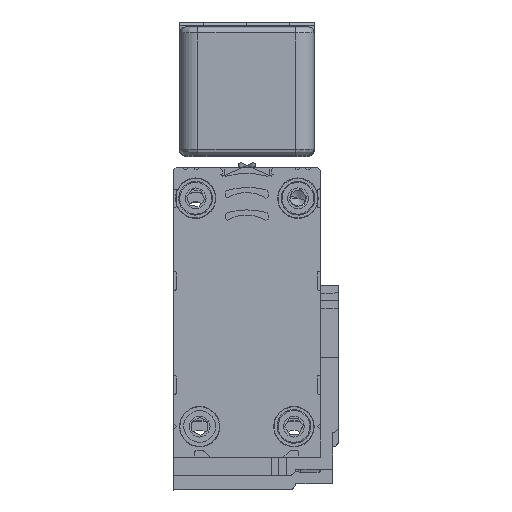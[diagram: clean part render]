
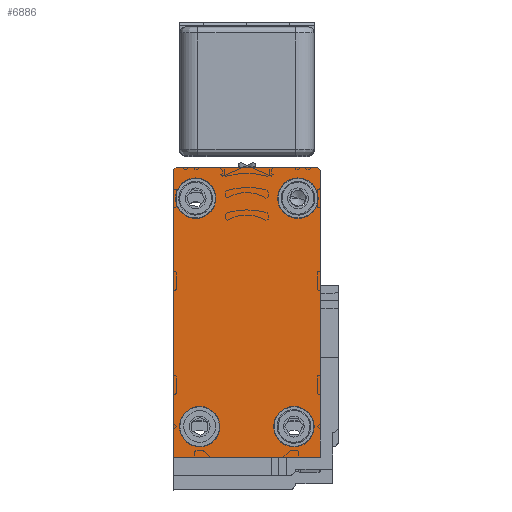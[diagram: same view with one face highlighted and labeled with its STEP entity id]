
A CAD part, top view. The second image highlights one B-rep face of the part: STEP entity #6886.
In plain terms, the highlighted planar face has unit normal (0, 0, 1).
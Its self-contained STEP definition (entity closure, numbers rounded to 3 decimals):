
#288 = EDGE_CURVE ( 'NONE', #23567, #12252, #1662, .T. ) ;
#358 = CARTESIAN_POINT ( 'NONE',  ( -17.514, 25.871, 3185. ) ) ;
#564 = CIRCLE ( 'NONE', #29011, 3.302 ) ;
#652 = CARTESIAN_POINT ( 'NONE',  ( -10.412, -15.887, 3185. ) ) ;
#701 = AXIS2_PLACEMENT_3D ( 'NONE', #11719, #27549, #14027 ) ;
#710 = CARTESIAN_POINT ( 'NONE',  ( 5.984, -20.888, 3185. ) ) ;
#812 = CARTESIAN_POINT ( 'NONE',  ( -13.714, -15.887, 3185. ) ) ;
#888 = VECTOR ( 'NONE', #16638, 1000. ) ;
#1091 = CARTESIAN_POINT ( 'NONE',  ( -14.365, 21.401, 3185. ) ) ;
#1185 = DIRECTION ( 'NONE',  ( 0., 1., 0. ) ) ;
#1212 = VERTEX_POINT ( 'NONE', #28076 ) ;
#1662 = LINE ( 'NONE', #23327, #888 ) ;
#1863 = DIRECTION ( 'NONE',  ( -1., 0., 0. ) ) ;
#2030 = DIRECTION ( 'NONE',  ( 0., 0., -1. ) ) ;
#2117 = AXIS2_PLACEMENT_3D ( 'NONE', #17116, #3514, #19370 ) ;
#2215 = LINE ( 'NONE', #7082, #13529 ) ;
#2303 = CIRCLE ( 'NONE', #11075, 0.5 ) ;
#2661 = DIRECTION ( 'NONE',  ( 0., 1., 0. ) ) ;
#3112 = DIRECTION ( 'NONE',  ( -1., 0., 0. ) ) ;
#3194 = FACE_BOUND ( 'NONE', #11896, .T. ) ;
#3378 = DIRECTION ( 'NONE',  ( -1., 0., 0. ) ) ;
#3384 = EDGE_LOOP ( 'NONE', ( #20297, #14581 ) ) ;
#3493 = EDGE_CURVE ( 'NONE', #7687, #1212, #10973, .T. ) ;
#3514 = DIRECTION ( 'NONE',  ( 0., 0., -1. ) ) ;
#3781 = ORIENTED_EDGE ( 'NONE', *, *, #3493, .T. ) ;
#3921 = EDGE_CURVE ( 'NONE', #20588, #12138, #12044, .T. ) ;
#4705 = CARTESIAN_POINT ( 'NONE',  ( -18.014, -20.888, 3185. ) ) ;
#4708 = AXIS2_PLACEMENT_3D ( 'NONE', #1091, #16981, #3378 ) ;
#4713 = CARTESIAN_POINT ( 'NONE',  ( -18.014, -20.888, 3185. ) ) ;
#4869 = ORIENTED_EDGE ( 'NONE', *, *, #26360, .T. ) ;
#5293 = DIRECTION ( 'NONE',  ( 1., 0., 0. ) ) ;
#5801 = CARTESIAN_POINT ( 'NONE',  ( 5.485, 26.371, 3185. ) ) ;
#6385 = EDGE_CURVE ( 'NONE', #18231, #28520, #23788, .T. ) ;
#6606 = LINE ( 'NONE', #16600, #11875 ) ;
#6886 = ADVANCED_FACE ( 'NONE', ( #27286, #3194, #21255, #26596, #20572 ), #24964, .T. ) ;
#6974 = DIRECTION ( 'NONE',  ( -1., 0., 0. ) ) ;
#6978 = CARTESIAN_POINT ( 'NONE',  ( 5.984, 25.871, 3185. ) ) ;
#7004 = CARTESIAN_POINT ( 'NONE',  ( 5.984, 7.11, 3185. ) ) ;
#7082 = CARTESIAN_POINT ( 'NONE',  ( 5.984, -20.888, 3185. ) ) ;
#7241 = ORIENTED_EDGE ( 'NONE', *, *, #19511, .T. ) ;
#7286 = ORIENTED_EDGE ( 'NONE', *, *, #18147, .F. ) ;
#7675 = ORIENTED_EDGE ( 'NONE', *, *, #8100, .T. ) ;
#7687 = VERTEX_POINT ( 'NONE', #8606 ) ;
#8055 = ORIENTED_EDGE ( 'NONE', *, *, #20238, .T. ) ;
#8100 = EDGE_CURVE ( 'NONE', #17282, #26298, #6606, .T. ) ;
#8310 = ORIENTED_EDGE ( 'NONE', *, *, #3921, .T. ) ;
#8528 = AXIS2_PLACEMENT_3D ( 'NONE', #15578, #2030, #17862 ) ;
#8606 = CARTESIAN_POINT ( 'NONE',  ( -11.063, 21.401, 3185. ) ) ;
#8900 = EDGE_LOOP ( 'NONE', ( #14418, #26445, #17996, #8310, #7286, #8055, #7675 ) ) ;
#10528 = EDGE_CURVE ( 'NONE', #12845, #20990, #16144, .T. ) ;
#10619 = CIRCLE ( 'NONE', #8528, 3.302 ) ;
#10973 = CIRCLE ( 'NONE', #22295, 3.302 ) ;
#11075 = AXIS2_PLACEMENT_3D ( 'NONE', #28316, #14769, #1185 ) ;
#11262 = CARTESIAN_POINT ( 'NONE',  ( -14.365, 21.401, 3185. ) ) ;
#11680 = EDGE_LOOP ( 'NONE', ( #4869, #3781 ) ) ;
#11719 = CARTESIAN_POINT ( 'NONE',  ( 2.335, 21.401, 3185. ) ) ;
#11834 = CARTESIAN_POINT ( 'NONE',  ( 2.335, 21.401, 3185. ) ) ;
#11875 = VECTOR ( 'NONE', #5293, 1000. ) ;
#11896 = EDGE_LOOP ( 'NONE', ( #7241, #12203 ) ) ;
#12044 = LINE ( 'NONE', #5801, #28703 ) ;
#12138 = VERTEX_POINT ( 'NONE', #22023 ) ;
#12203 = ORIENTED_EDGE ( 'NONE', *, *, #10528, .T. ) ;
#12208 = VERTEX_POINT ( 'NONE', #18087 ) ;
#12252 = VERTEX_POINT ( 'NONE', #6978 ) ;
#12257 = AXIS2_PLACEMENT_3D ( 'NONE', #4705, #20525, #6974 ) ;
#12845 = VERTEX_POINT ( 'NONE', #27649 ) ;
#13244 = EDGE_CURVE ( 'NONE', #28520, #18231, #27153, .T. ) ;
#13529 = VECTOR ( 'NONE', #20637, 1000. ) ;
#13530 = DIRECTION ( 'NONE',  ( -1., 0., 0. ) ) ;
#14027 = DIRECTION ( 'NONE',  ( -1., 0., 0. ) ) ;
#14142 = DIRECTION ( 'NONE',  ( -1., 0., 0. ) ) ;
#14196 = CIRCLE ( 'NONE', #4708, 3.302 ) ;
#14418 = ORIENTED_EDGE ( 'NONE', *, *, #26098, .T. ) ;
#14462 = CARTESIAN_POINT ( 'NONE',  ( 5.485, 26.371, 3185. ) ) ;
#14581 = ORIENTED_EDGE ( 'NONE', *, *, #6385, .T. ) ;
#14769 = DIRECTION ( 'NONE',  ( 0., 0., 1. ) ) ;
#14882 = DIRECTION ( 'NONE',  ( -1., 0., 0. ) ) ;
#15053 = LINE ( 'NONE', #22982, #26375 ) ;
#15412 = DIRECTION ( 'NONE',  ( 0., 0., -1. ) ) ;
#15578 = CARTESIAN_POINT ( 'NONE',  ( 1.676, -15.887, 3185. ) ) ;
#16144 = CIRCLE ( 'NONE', #701, 3.302 ) ;
#16249 = DIRECTION ( 'NONE',  ( 0., 0., -1. ) ) ;
#16421 = ORIENTED_EDGE ( 'NONE', *, *, #19695, .T. ) ;
#16600 = CARTESIAN_POINT ( 'NONE',  ( -18.014, -20.888, 3185. ) ) ;
#16638 = DIRECTION ( 'NONE',  ( 0., 1., 0. ) ) ;
#16704 = DIRECTION ( 'NONE',  ( 0., 0., -1. ) ) ;
#16981 = DIRECTION ( 'NONE',  ( 0., 0., -1. ) ) ;
#17036 = AXIS2_PLACEMENT_3D ( 'NONE', #812, #16704, #3112 ) ;
#17116 = CARTESIAN_POINT ( 'NONE',  ( 1.676, -15.887, 3185. ) ) ;
#17282 = VERTEX_POINT ( 'NONE', #4713 ) ;
#17403 = AXIS2_PLACEMENT_3D ( 'NONE', #28977, #15412, #1863 ) ;
#17612 = EDGE_CURVE ( 'NONE', #12252, #20588, #2303, .T. ) ;
#17862 = DIRECTION ( 'NONE',  ( -1., 0., 0. ) ) ;
#17996 = ORIENTED_EDGE ( 'NONE', *, *, #17612, .T. ) ;
#18087 = CARTESIAN_POINT ( 'NONE',  ( 4.978, -15.887, 3185. ) ) ;
#18147 = EDGE_CURVE ( 'NONE', #23224, #12138, #22339, .T. ) ;
#18231 = VERTEX_POINT ( 'NONE', #652 ) ;
#19026 = CARTESIAN_POINT ( 'NONE',  ( -17.017, -15.887, 3185. ) ) ;
#19370 = DIRECTION ( 'NONE',  ( -1., 0., 0. ) ) ;
#19511 = EDGE_CURVE ( 'NONE', #20990, #12845, #564, .T. ) ;
#19695 = EDGE_CURVE ( 'NONE', #26059, #12208, #22197, .T. ) ;
#20238 = EDGE_CURVE ( 'NONE', #23224, #17282, #15053, .T. ) ;
#20297 = ORIENTED_EDGE ( 'NONE', *, *, #13244, .T. ) ;
#20525 = DIRECTION ( 'NONE',  ( 0., 0., 1. ) ) ;
#20572 = FACE_OUTER_BOUND ( 'NONE', #8900, .T. ) ;
#20588 = VERTEX_POINT ( 'NONE', #14462 ) ;
#20637 = DIRECTION ( 'NONE',  ( 0., 1., 0. ) ) ;
#20990 = VERTEX_POINT ( 'NONE', #29399 ) ;
#21255 = FACE_BOUND ( 'NONE', #27674, .T. ) ;
#21905 = ORIENTED_EDGE ( 'NONE', *, *, #27212, .T. ) ;
#22023 = CARTESIAN_POINT ( 'NONE',  ( -17.514, 26.371, 3185. ) ) ;
#22197 = CIRCLE ( 'NONE', #2117, 3.302 ) ;
#22295 = AXIS2_PLACEMENT_3D ( 'NONE', #11262, #27054, #13530 ) ;
#22339 = CIRCLE ( 'NONE', #23537, 0.5 ) ;
#22982 = CARTESIAN_POINT ( 'NONE',  ( -18.014, 25.871, 3185. ) ) ;
#23224 = VERTEX_POINT ( 'NONE', #24890 ) ;
#23327 = CARTESIAN_POINT ( 'NONE',  ( 5.984, 7.11, 3185. ) ) ;
#23537 = AXIS2_PLACEMENT_3D ( 'NONE', #358, #16249, #2661 ) ;
#23567 = VERTEX_POINT ( 'NONE', #7004 ) ;
#23788 = CIRCLE ( 'NONE', #17036, 3.302 ) ;
#24890 = CARTESIAN_POINT ( 'NONE',  ( -18.014, 25.871, 3185. ) ) ;
#24964 = PLANE ( 'NONE',  #12257 ) ;
#25083 = CARTESIAN_POINT ( 'NONE',  ( -1.626, -15.887, 3185. ) ) ;
#25265 = DIRECTION ( 'NONE',  ( 0., -1., 0. ) ) ;
#26059 = VERTEX_POINT ( 'NONE', #25083 ) ;
#26098 = EDGE_CURVE ( 'NONE', #26298, #23567, #2215, .T. ) ;
#26298 = VERTEX_POINT ( 'NONE', #710 ) ;
#26360 = EDGE_CURVE ( 'NONE', #1212, #7687, #14196, .T. ) ;
#26375 = VECTOR ( 'NONE', #25265, 1000. ) ;
#26445 = ORIENTED_EDGE ( 'NONE', *, *, #288, .T. ) ;
#26596 = FACE_BOUND ( 'NONE', #3384, .T. ) ;
#27054 = DIRECTION ( 'NONE',  ( 0., 0., -1. ) ) ;
#27153 = CIRCLE ( 'NONE', #17403, 3.302 ) ;
#27212 = EDGE_CURVE ( 'NONE', #12208, #26059, #10619, .T. ) ;
#27286 = FACE_BOUND ( 'NONE', #11680, .T. ) ;
#27549 = DIRECTION ( 'NONE',  ( 0., 0., -1. ) ) ;
#27649 = CARTESIAN_POINT ( 'NONE',  ( 5.637, 21.401, 3185. ) ) ;
#27650 = DIRECTION ( 'NONE',  ( 0., 0., -1. ) ) ;
#27674 = EDGE_LOOP ( 'NONE', ( #16421, #21905 ) ) ;
#28076 = CARTESIAN_POINT ( 'NONE',  ( -17.667, 21.401, 3185. ) ) ;
#28316 = CARTESIAN_POINT ( 'NONE',  ( 5.485, 25.871, 3185. ) ) ;
#28520 = VERTEX_POINT ( 'NONE', #19026 ) ;
#28703 = VECTOR ( 'NONE', #14882, 1000. ) ;
#28977 = CARTESIAN_POINT ( 'NONE',  ( -13.714, -15.887, 3185. ) ) ;
#29011 = AXIS2_PLACEMENT_3D ( 'NONE', #11834, #27650, #14142 ) ;
#29399 = CARTESIAN_POINT ( 'NONE',  ( -0.967, 21.401, 3185. ) ) ;
